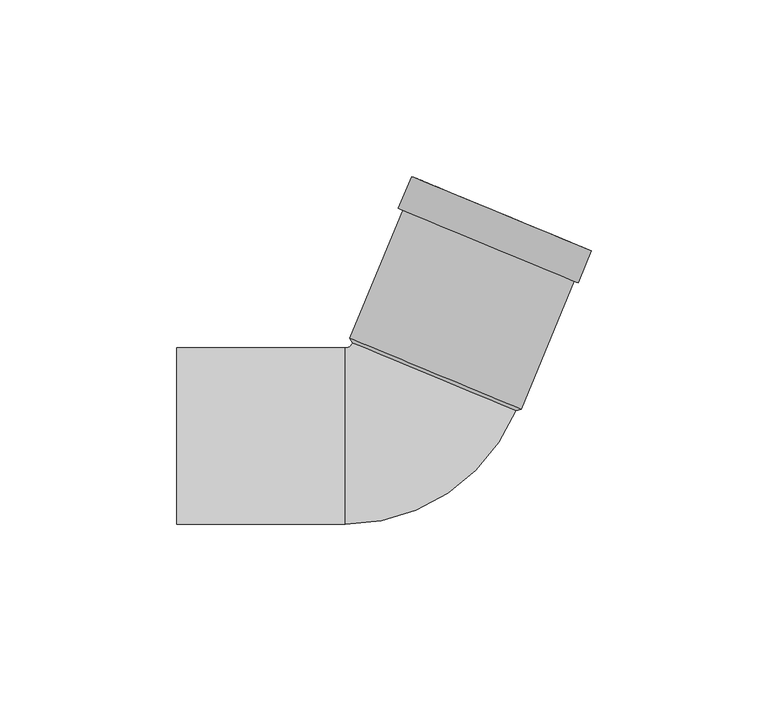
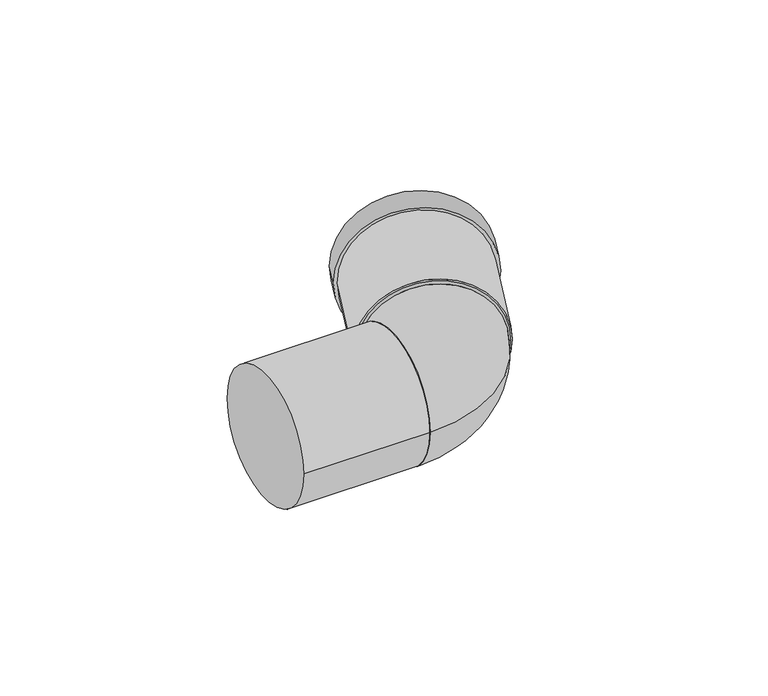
"""IFC4 building model written with IfcOpenShell, lengths in millimetres: pipe fitting geometry, Superdrain HT bend : Superdrain HT Bend."""

from ifc_helpers import new_model, si_unit, point, frame, origin, origin_2d, place, context, project, spatial, polyline, circle_curve, ellipse_curve, trimmed, segment, composite_curve, outline, extrude, source, transform, mapped, element, save
from ifc_brep_helpers import plane_surface, revolved_surface, advanced_brep


def pipe_fitting_f3c7474d(model_context):
    return source(origin(), model_context, "Body", "SolidModel", [
        advanced_brep(
        [(30.0618268, 7.2475217, 0.0), (-16.1321498, 26.3816933, 0.0), (-18.2, -25.0, 0.0), (-18.2, 25.0, 0.0)],
        [
            (0, 1, circle_curve(frame((6.9648385, 16.8146075, 0.0), z_axis=(0.3826834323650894, 0.923879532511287, 0.0), x_axis=(-0.923879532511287, 0.3826834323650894, 0.0)), 25.0)),
            (1, 0, circle_curve(frame((6.9648385, 16.8146075, 0.0), z_axis=(0.3826834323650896, 0.9238795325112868, 0.0), x_axis=(-0.9238795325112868, 0.3826834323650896, 0.0)), 25.0)),
            (2, 3, circle_curve(frame((-18.2, 0.0, 0.0), z_axis=(-1.0, 0.0, 0.0), x_axis=(0.0, 1.0, 0.0)), 25.0)),
            (3, 2, circle_curve(frame((-18.2, 0.0, 0.0), z_axis=(-1.0, 0.0, 0.0), x_axis=(0.0, 1.0, 0.0)), 25.0)),
            (3, 1, circle_curve(frame((-18.2, 27.2382249, 0.0), z_axis=(0.0, 0.0, 1.0), x_axis=(1.0, 0.0, 0.0)), 2.2382249)),
            (0, 2, circle_curve(frame((-18.2, 27.2382249, 0.0), z_axis=(0.0, 0.0, -1.0), x_axis=(1.0, 0.0, 0.0)), 52.2382249)),
        ],
        [
            plane_surface(frame((6.9648385, 16.8146075, 0.0), z_axis=(0.38268343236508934, 0.923879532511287, 0.0), x_axis=(0.0, 0.0, -1.0))),
            plane_surface(frame((-18.2, 0.0, 0.0), z_axis=(-1.0, 0.0, 0.0), x_axis=(0.0, 0.0, -1.0))),
            revolved_surface(trimmed(ellipse_curve(frame((9.0382249, 27.2382249, 0.0), z_axis=(0.0, -1.0, 0.0), x_axis=(-1.0, 0.0, 0.0)), 25.0, 25.0), [point((-15.9617751, 27.2382249, 0.0))], [point((34.0382249, 27.2382249, 0.0))], True, "CARTESIAN"), (-18.2, 27.2382249, 0.0), (0.0, 0.0, 1.0)),
            revolved_surface(trimmed(ellipse_curve(frame((9.0382249, 27.2382249, 0.0), z_axis=(0.0, -1.0, 0.0), x_axis=(-1.0, 0.0, 0.0)), 25.0, 25.0), [point((34.0382249, 27.2382249, 0.0))], [point((-15.9617751, 27.2382249, 0.0))], True, "CARTESIAN"), (-18.2, 27.2382249, 0.0), (0.0, 0.0, 1.0)),
        ],
        [
            (0, [[1, 2]]),
            (1, [[3, 4]]),
            (2, [[-4, 5, -1, 6]]),
            (3, [[-3, -6, -2, -5]]),
        ],
    ),
        extrude(outline(composite_curve([segment(trimmed(circle_curve(origin_2d(), 26.25), [point((0.0, 26.25))], [point((0.0, -26.25))], False, "CARTESIAN"), True, "CONTINUOUS"), segment(trimmed(circle_curve(origin_2d(), 26.25), [point((0.0, -26.25))], [point((0.0, 26.25))], False, "CARTESIAN"), True, "CONTINUOUS")], self_intersect=False), holes=[composite_curve([segment(trimmed(circle_curve(origin_2d(), 25.0), [point((0.0, 25.0))], [point((0.0, -25.0))], True, "CARTESIAN"), True, "CONTINUOUS"), segment(trimmed(circle_curve(origin_2d(), 25.0), [point((0.0, -25.0))], [point((0.0, 25.0))], True, "CARTESIAN"), True, "CONTINUOUS")], self_intersect=False)]), frame((7.3475219, 17.738487, 0.0), z_axis=(0.38268343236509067, 0.9238795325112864, 0.0), x_axis=(0.0, 0.0, 1.0)), (0.0, 0.0, 1.0), 49.0),
        extrude(outline(composite_curve([segment(trimmed(circle_curve(origin_2d(), 27.5625), [point((0.0, -27.5625001))], [point((0.0, 27.5625))], False, "CARTESIAN"), True, "CONTINUOUS"), segment(trimmed(circle_curve(origin_2d(), 27.5625), [point((0.0, 27.5625))], [point((0.0, -27.5625001))], False, "CARTESIAN"), True, "CONTINUOUS")], self_intersect=False), holes=[composite_curve([segment(trimmed(circle_curve(origin_2d(), 25.0), [point((0.0, -25.0000001))], [point((0.0, 25.0))], True, "CARTESIAN"), True, "CONTINUOUS"), segment(trimmed(circle_curve(origin_2d(), 25.0), [point((0.0, 25.0))], [point((0.0, -25.0000001))], True, "CARTESIAN"), True, "CONTINUOUS")], self_intersect=False)]), frame((22.3487125, 53.9545647, 0.0), z_axis=(0.38268343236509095, 0.9238795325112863, 0.0), x_axis=(0.0, 0.0, 1.0)), (0.0, 0.0, 1.0), 9.8),
        advanced_brep(
        [(31.5993596, 7.6930469, 0.0), (-16.9043158, 27.7839271, 0.0), (30.0618268, 7.2475217, 0.0), (-16.1321498, 26.3816933, 0.0)],
        [
            (0, 1, circle_curve(frame((7.3475219, 17.738487, 0.0), z_axis=(0.3826834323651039, 0.923879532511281, 0.0), x_axis=(0.9238795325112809, -0.38268343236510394, 0.0)), 26.25)),
            (1, 0, circle_curve(frame((7.3475219, 17.738487, 0.0), z_axis=(0.3826834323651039, 0.923879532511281, 0.0), x_axis=(-0.9238795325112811, 0.38268343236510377, 0.0)), 26.25)),
            (2, 3, circle_curve(frame((6.9648385, 16.8146075, 0.0), z_axis=(-0.3826834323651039, -0.923879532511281, 0.0), x_axis=(-0.9238795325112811, 0.38268343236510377, 0.0)), 25.0)),
            (3, 2, circle_curve(frame((6.9648385, 16.8146075, 0.0), z_axis=(-0.3826834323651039, -0.923879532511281, 0.0), x_axis=(0.9238795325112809, -0.38268343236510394, 0.0)), 25.0)),
            (3, 1),
            (0, 2),
        ],
        [
            plane_surface(frame((7.3475219, 17.738487, 0.0), z_axis=(0.3826834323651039, 0.923879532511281, 0.0), x_axis=(0.0, 0.0, -1.0))),
            plane_surface(frame((6.9648385, 16.8146075, 0.0), z_axis=(-0.3826834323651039, -0.923879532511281, 0.0), x_axis=(0.0, 0.0, -1.0))),
            revolved_surface(polyline([(-16.132149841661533, 26.38169331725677, 0.0), (-16.9043158, 27.7839271, 0.0)]), (-0.6888302, -1.6629832, 0.0), (0.3826834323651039, 0.923879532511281, 0.0)),
            revolved_surface(polyline([(30.06182683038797, 7.247521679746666, 0.0), (31.599359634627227, 7.693046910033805, 0.0)]), (-0.6888302, -1.6629832, 0.0), (0.3826834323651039, 0.923879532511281, 0.0)),
        ],
        [
            (0, [[1, 2]]),
            (1, [[3, 4]]),
            (2, [[-4, 5, -1, 6]]),
            (3, [[-3, -6, -2, -5]]),
        ],
    ),
        extrude(outline(composite_curve([segment(trimmed(circle_curve(origin_2d(), 25.0), [point((-25.0, 0.0))], [point((25.0, 0.0))], False, "CARTESIAN"), True, "CONTINUOUS"), segment(trimmed(circle_curve(origin_2d(), 25.0), [point((25.0, 0.0))], [point((-25.0, 0.0))], False, "CARTESIAN"), True, "CONTINUOUS")], self_intersect=False)), frame((-66.0, 0.0, 0.0), z_axis=(1.0, 0.0, 0.0), x_axis=(0.0, 1.0, 0.0)), (0.0, 0.0, 1.0), 47.8),
    ])


if __name__ == "__main__":
    model = new_model("IFC4")
    model_context = context("Model", 3, world=origin())
    ifc_project = project(units=[si_unit("LENGTHUNIT", "METRE", prefix="MILLI")], contexts=[model_context])
    site = spatial("IfcSite", under=ifc_project)
    building = spatial("IfcBuilding", under=site)
    placement = place(None, origin())
    pipe_fitting_shape = pipe_fitting_f3c7474d(model_context)
    element("IfcPipeFitting", 1, ObjectType="Superdrain HT bend : Superdrain HT Bend", at=placement, inside=building, context=model_context, shape_type="MappedRepresentation", body=[
        mapped(pipe_fitting_shape, transform((0.0, 0.0, 0.0), x_axis=(1.0, 0.0, 0.0), y_axis=(0.0, 1.0, 0.0), z_axis=(0.0, 0.0, 1.0))),
    ])
    save(model, "model.ifc")
